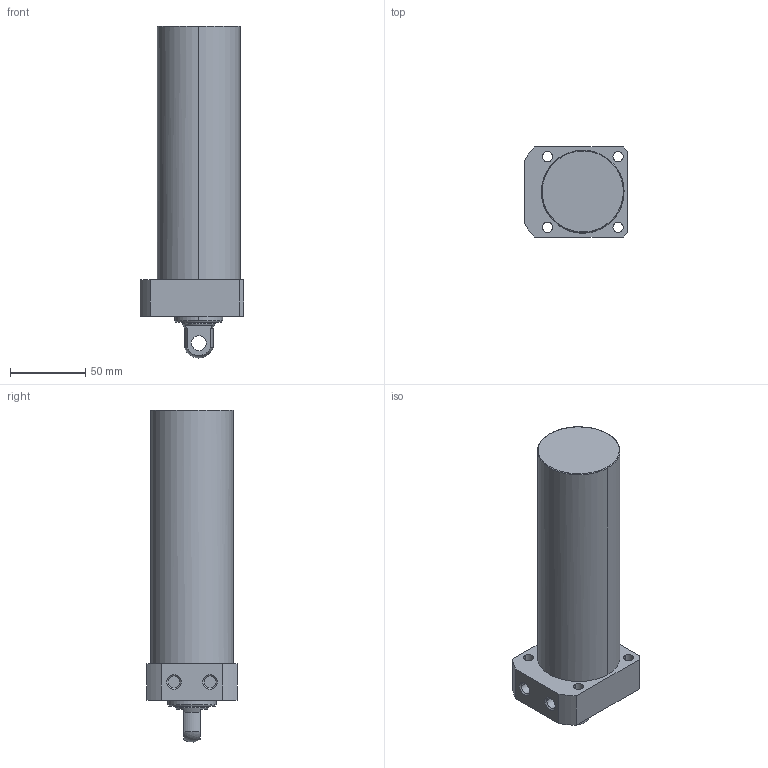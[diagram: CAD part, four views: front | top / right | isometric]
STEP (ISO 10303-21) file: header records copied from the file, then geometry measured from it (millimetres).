
FILE_DESCRIPTION((' '),'2;1');
FILE_NAME( 'TLLR-055CP-140.STEP.stp', '2025-10-24T16:34:52', (' '), ('--- Datakit www.datakit.com---'), ' Datakit CrossCadWare V2024.1 Dec 21 2023', 'Mastercam 2025', ' ');
FILE_SCHEMA(('AUTOMOTIVE_DESIGN { 1 0 10303 214 1 1 1 1 }'));
Length unit declared in the file: millimetre
Products named in the file (1): TLLR-055CP-140
Bounding box: 69 x 60 x 220.93 mm (x, y, z)
Volume: 501039 mm3; surface area: 47419.2 mm2
Topology: 1 solids, 1 shells, 57 faces, 164 edges, 116 vertices
Faces by surface type: cylinder 28, plane 18, cone 8, torus 2, sphere 1
Entity records: 2006 total; most frequent: DIRECTION 378, CARTESIAN_POINT 350, ORIENTED_EDGE 328, EDGE_CURVE 164, AXIS2_PLACEMENT_3D 160, VERTEX_POINT 116, CIRCLE 102, EDGE_LOOP 74
